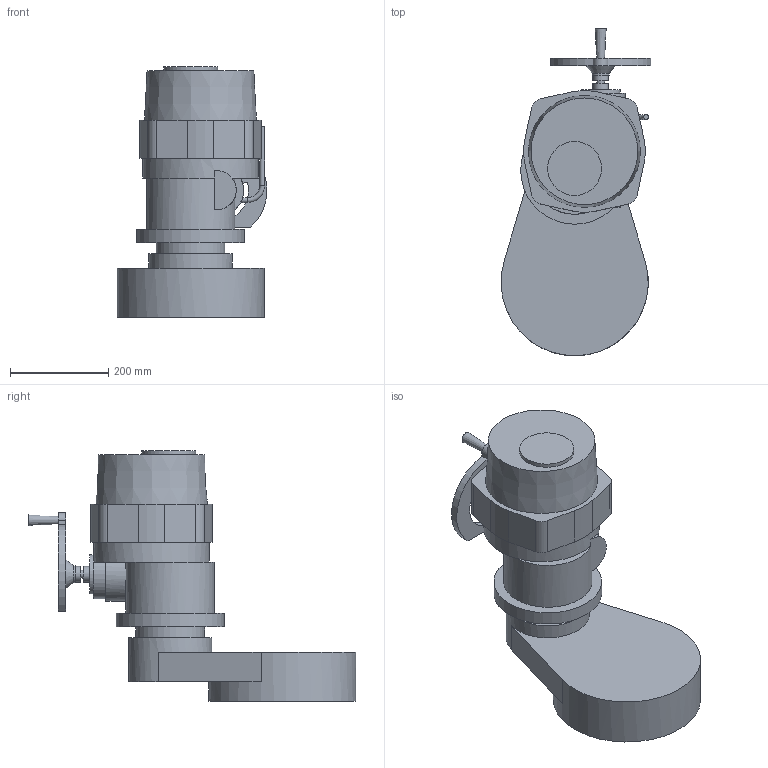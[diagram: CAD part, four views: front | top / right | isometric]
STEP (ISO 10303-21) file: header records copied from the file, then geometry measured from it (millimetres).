
FILE_DESCRIPTION(('STEP AP203'), '1');
FILE_NAME('Ýëåêòðîïðèâîä QT.A 150 áåç áëîêà óïðàâëåíèÿ', '', ('UNSPECIFIED'), ('UNSPECIFIED'), 'ASCON STEP Converter 1.6', 'ASCON Math Kernel', '');
FILE_SCHEMA(('CONFIG_CONTROL_DESIGN'));
Length unit declared in the file: millimetre
Bounding box: 305.23 x 667 x 511 mm (x, y, z)
Volume: 24527713.3 mm3; surface area: 817413 mm2
Topology: 1 solids, 1 shells, 119 faces, 252 edges, 166 vertices
Faces by surface type: plane 62, cylinder 53, cone 3, torus 1
Full cylindrical faces by diameter (mm): 10 x2, 14 x12, 16 x1, 17.5 x4, 32 x2, 35 x1, 60 x1, 80 x1, 100 x1, 110 x1, 140 x1, 170 x1, 180 x1, 220 x1, 235 x1, 300 x1
Entity records: 4485 total; most frequent: CARTESIAN_POINT 982, DIRECTION 558, ORIENTED_EDGE 426, AXIS2_PLACEMENT_3D 235, EDGE_CURVE 213, EDGE_LOOP 191, VERTEX_POINT 164, FACE_BOUND 124
